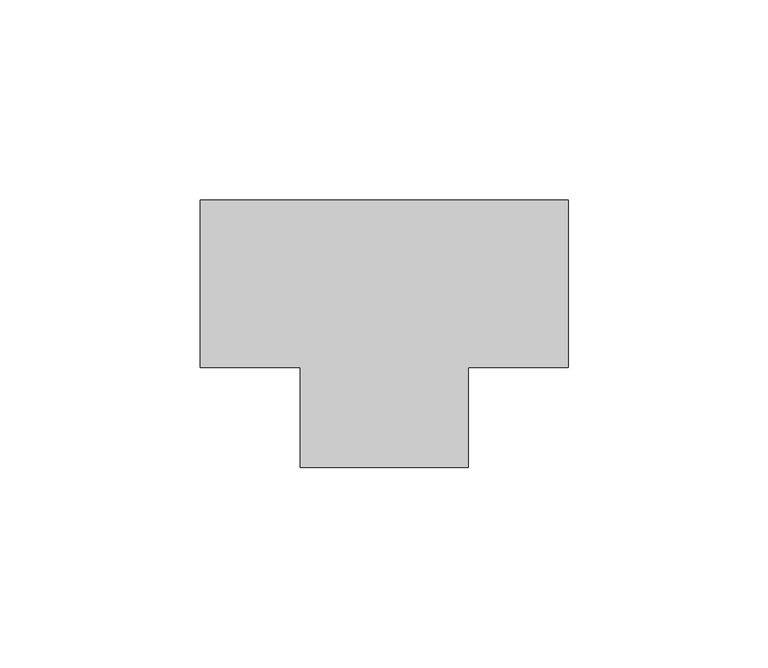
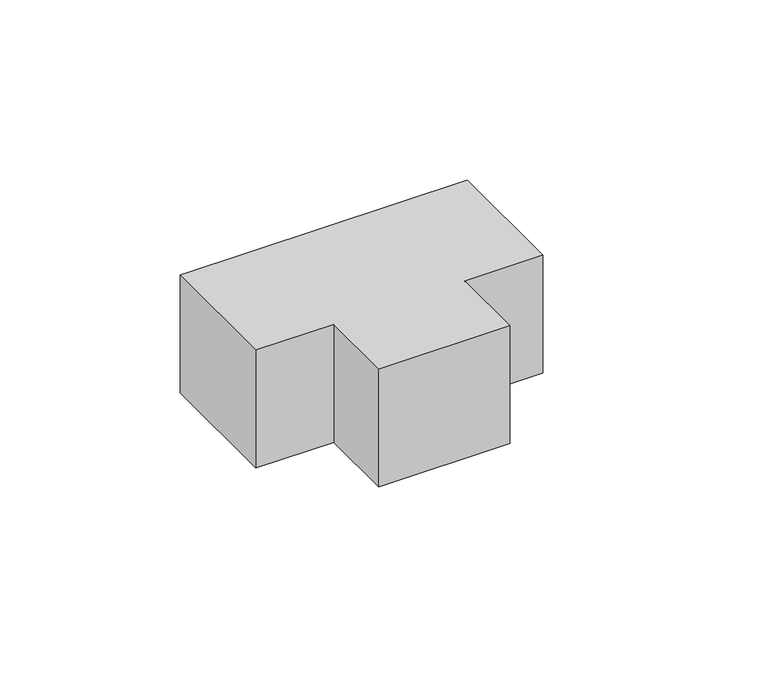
"""IFC4 building model written with IfcOpenShell, lengths in millimetres: duct fitting geometry, КНС_Тройник_DKC : Стандарт."""

from ifc_helpers import new_model, si_unit, frame, origin, place, context, project, spatial, polyline, outline, extrude, source, transform, mapped, element, save


def duct_fitting_06093752(model_context):
    return source(origin(), model_context, "Body", "SweptSolid", [
        extrude(outline(polyline([(-46.0, -21.0), (-46.0, 21.0), (46.0, 21.0), (46.0, -21.0), (21.0, -21.0), (21.0, -46.0), (-21.0, -46.0), (-21.0, -21.0), (-46.0, -21.0)])), frame((0.0, 0.0, -20.0), z_axis=(0.0, 0.0, 1.0), x_axis=(1.0, 0.0, 0.0)), (0.0, 0.0, 1.0), 40.0),
    ])


if __name__ == "__main__":
    model = new_model("IFC4")
    model_context = context("Model", 3, world=origin())
    ifc_project = project(units=[si_unit("LENGTHUNIT", "METRE", prefix="MILLI")], contexts=[model_context])
    site = spatial("IfcSite", under=ifc_project)
    building = spatial("IfcBuilding", under=site)
    placement = place(None, origin())
    duct_fitting_shape = duct_fitting_06093752(model_context)
    element("IfcDuctFitting", 1, ObjectType="КНС_Тройник_DKC : Стандарт", at=placement, inside=building, context=model_context, shape_type="MappedRepresentation", body=[
        mapped(duct_fitting_shape, transform((0.0, 0.0, 0.0), x_axis=(1.0, 0.0, 0.0), y_axis=(0.0, 1.0, 0.0), z_axis=(0.0, 0.0, 1.0))),
    ])
    save(model, "model.ifc")
